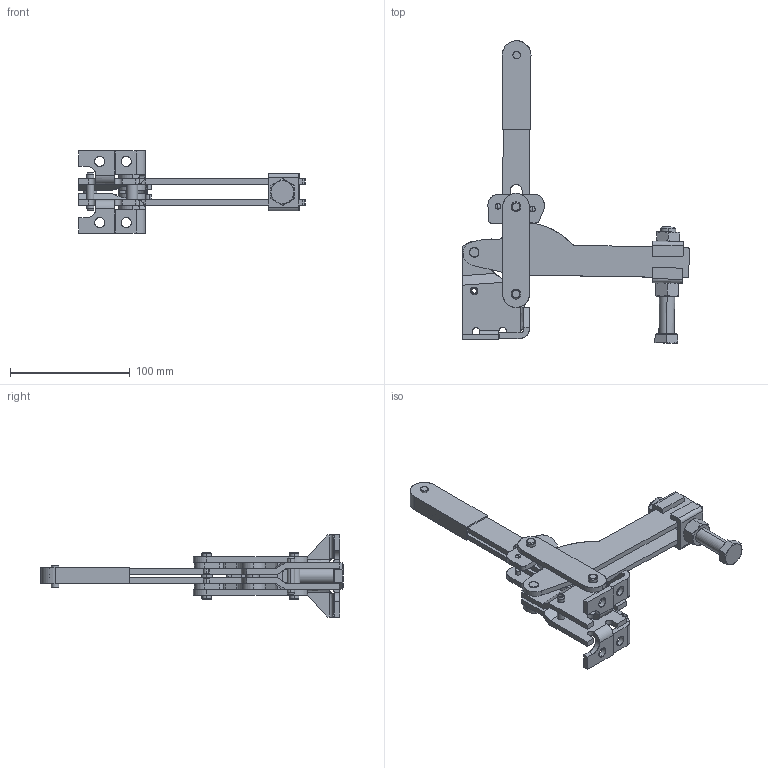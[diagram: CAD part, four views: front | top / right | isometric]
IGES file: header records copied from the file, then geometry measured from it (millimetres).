
Start section: SolidWorks IGES file using analytic representation for surfaces
Global section: file name: C:\1a1-lapeer-mfg\v800\iges\CAV-800.IGS; native system: SolidWorks 2005 by SolidWorks Corporation; preprocessor: SolidWorks 2005 by SolidWorks Corporation; author: rtaylor; date: 060119.195411; units: inch
Bounding box: 188.97 x 252.29 x 68.48 mm (x, y, z)
Surface area: 113382.3 mm2 (no closed solid volume)
Topology: 0 solids, 0 shells, 526 faces, 7771 edges, 7755 vertices
Faces by surface type: bspline 265, revolution 261
